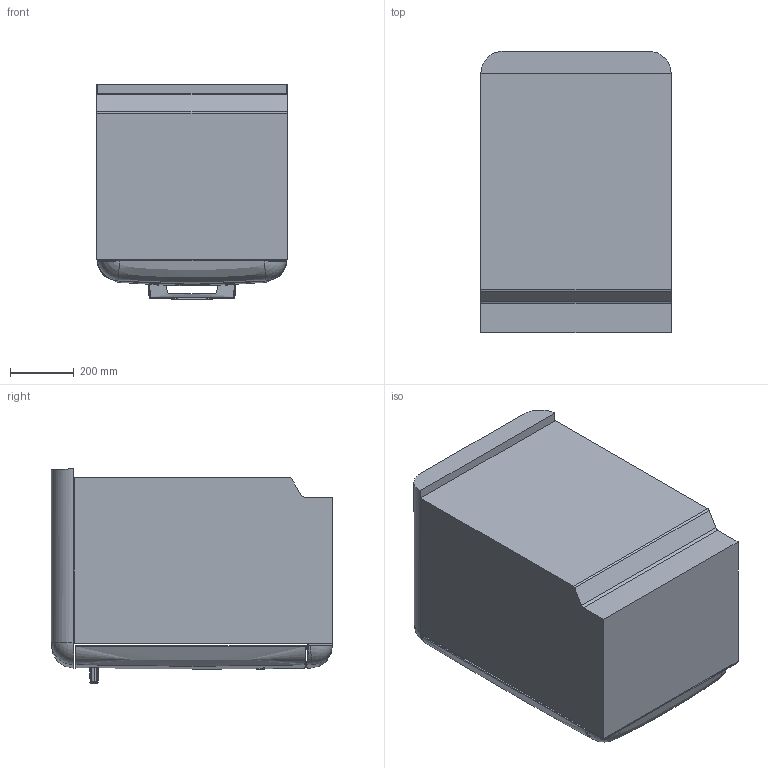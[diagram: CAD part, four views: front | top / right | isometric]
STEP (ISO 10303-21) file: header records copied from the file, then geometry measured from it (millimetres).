
FILE_DESCRIPTION (( 'STEP AP214' ), '1' );
FILE_NAME ('LVS Bombina.STEP', '2017-11-27T10:27:24', ( '' ), ( '' ), 'SwSTEP 2.0', 'SolidWorks 2016', '' );
FILE_SCHEMA (( 'AUTOMOTIVE_DESIGN' ));
Length unit declared in the file: millimetre
Products named in the file (1): LVS Bombina
Bounding box: 598 x 885 x 675 mm (x, y, z)
Volume: 304584259.2 mm3; surface area: 4450900.5 mm2
Topology: 9 solids, 9 shells, 296 faces, 784 edges, 507 vertices
Faces by surface type: bspline 123, plane 92, cylinder 54, torus 16, sphere 11
Entity records: 12306 total; most frequent: CARTESIAN_POINT 6017, ORIENTED_EDGE 1560, DIRECTION 889, EDGE_CURVE 780, VERTEX_POINT 507, B_SPLINE_CURVE_WITH_KNOTS 361, AXIS2_PLACEMENT_3D 315, EDGE_LOOP 301
